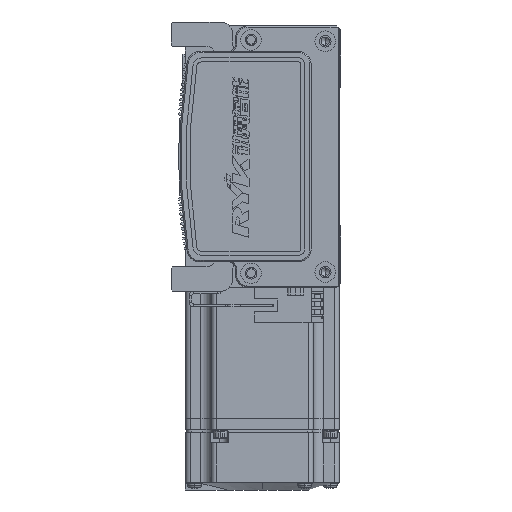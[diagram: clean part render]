
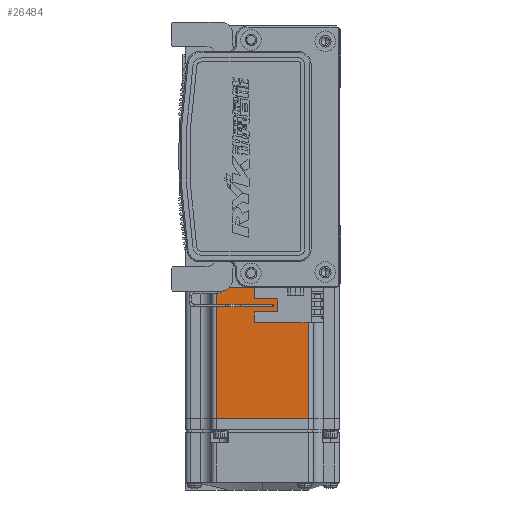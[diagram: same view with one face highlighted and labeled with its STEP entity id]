
A CAD part, left-side view. The second image highlights one B-rep face of the part: STEP entity #26484.
In plain terms, the highlighted planar face has unit normal (-1, 0, 0) as drawn and (0, 0, 1) by its records, which use the part's own axes.
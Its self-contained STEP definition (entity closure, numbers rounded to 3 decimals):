
#2323 = LINE ( 'NONE', #34880, #16038 ) ;
#4254 = VECTOR ( 'NONE', #18593, 1000. ) ;
#7491 = LINE ( 'NONE', #29442, #4254 ) ;
#10075 = CARTESIAN_POINT ( 'NONE',  ( -70.95, 0., 30. ) ) ;
#11411 = DIRECTION ( 'NONE',  ( 1., 0., 0. ) ) ;
#11852 = ORIENTED_EDGE ( 'NONE', *, *, #57212, .F. ) ;
#13457 = VERTEX_POINT ( 'NONE', #44141 ) ;
#14525 = ORIENTED_EDGE ( 'NONE', *, *, #31709, .T. ) ;
#15317 = CARTESIAN_POINT ( 'NONE',  ( -7.75, -18., 30. ) ) ;
#16038 = VECTOR ( 'NONE', #40326, 1000. ) ;
#16112 = FACE_OUTER_BOUND ( 'NONE', #38064, .T. ) ;
#17181 = VERTEX_POINT ( 'NONE', #44604 ) ;
#18465 = CARTESIAN_POINT ( 'NONE',  ( -70.95, -18., 30. ) ) ;
#18593 = DIRECTION ( 'NONE',  ( -1., 0., 0. ) ) ;
#22424 = AXIS2_PLACEMENT_3D ( 'NONE', #32840, #37414, #11411 ) ;
#26484 = ADVANCED_FACE ( 'NONE', ( #16112 ), #27683, .T. ) ;
#27683 = PLANE ( 'NONE',  #22424 ) ;
#29442 = CARTESIAN_POINT ( 'NONE',  ( -6.5, -18., 30. ) ) ;
#30288 = VERTEX_POINT ( 'NONE', #18465 ) ;
#31709 = EDGE_CURVE ( 'NONE', #13457, #30288, #33879, .T. ) ;
#32569 = CARTESIAN_POINT ( 'NONE',  ( -6.5, 18., 30. ) ) ;
#32840 = CARTESIAN_POINT ( 'NONE',  ( -6.5, -25., 30. ) ) ;
#33879 = LINE ( 'NONE', #10075, #37164 ) ;
#34880 = CARTESIAN_POINT ( 'NONE',  ( -7.75, 0., 30. ) ) ;
#37164 = VECTOR ( 'NONE', #46444, 1000. ) ;
#37414 = DIRECTION ( 'NONE',  ( 0., 0., 1. ) ) ;
#38064 = EDGE_LOOP ( 'NONE', ( #11852, #54265, #14525, #60148 ) ) ;
#40326 = DIRECTION ( 'NONE',  ( 0., -1., 0. ) ) ;
#44141 = CARTESIAN_POINT ( 'NONE',  ( -70.95, 18., 30. ) ) ;
#44604 = CARTESIAN_POINT ( 'NONE',  ( -7.75, 18., 30. ) ) ;
#46444 = DIRECTION ( 'NONE',  ( 0., -1., 0. ) ) ;
#48603 = DIRECTION ( 'NONE',  ( -1., 0., 0. ) ) ;
#49241 = EDGE_CURVE ( 'NONE', #17181, #13457, #56085, .T. ) ;
#50486 = EDGE_CURVE ( 'NONE', #65751, #30288, #7491, .T. ) ;
#54265 = ORIENTED_EDGE ( 'NONE', *, *, #49241, .T. ) ;
#56085 = LINE ( 'NONE', #32569, #60960 ) ;
#57212 = EDGE_CURVE ( 'NONE', #17181, #65751, #2323, .T. ) ;
#60148 = ORIENTED_EDGE ( 'NONE', *, *, #50486, .F. ) ;
#60960 = VECTOR ( 'NONE', #48603, 1000. ) ;
#65751 = VERTEX_POINT ( 'NONE', #15317 ) ;
